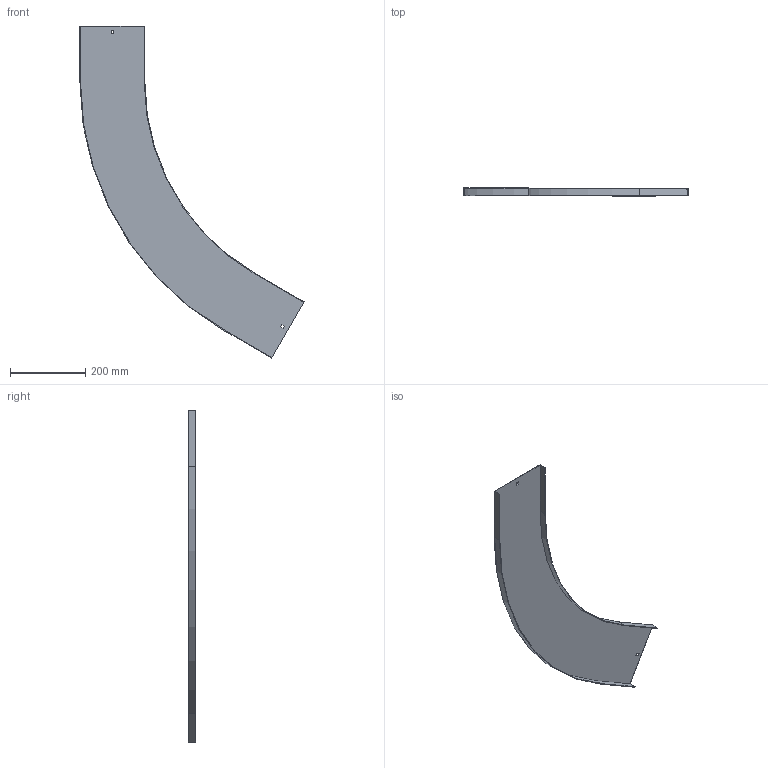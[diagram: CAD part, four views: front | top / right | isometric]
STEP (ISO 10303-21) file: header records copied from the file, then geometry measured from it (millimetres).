
FILE_DESCRIPTION (( 'STEP AP214' ), '1' );
FILE_NAME ('13N6P150.step', '2025-02-21T13:35:55', ( '' ), ( '' ), 'SwSTEP 2.0', 'SolidWorks 2023', '' );
FILE_SCHEMA (( 'AUTOMOTIVE_DESIGN' ));
Length unit declared in the file: millimetre
Products named in the file (1): 13N6P150
Bounding box: 597.15 x 20 x 884.48 mm (x, y, z)
Volume: 316984.9 mm3; surface area: 426390.1 mm2
Topology: 1 solids, 1 shells, 26 faces, 72 edges, 48 vertices
Faces by surface type: plane 22, cylinder 4
Entity records: 855 total; most frequent: CARTESIAN_POINT 147, ORIENTED_EDGE 144, DIRECTION 134, EDGE_CURVE 72, LINE 64, VECTOR 64, VERTEX_POINT 48, AXIS2_PLACEMENT_3D 35
